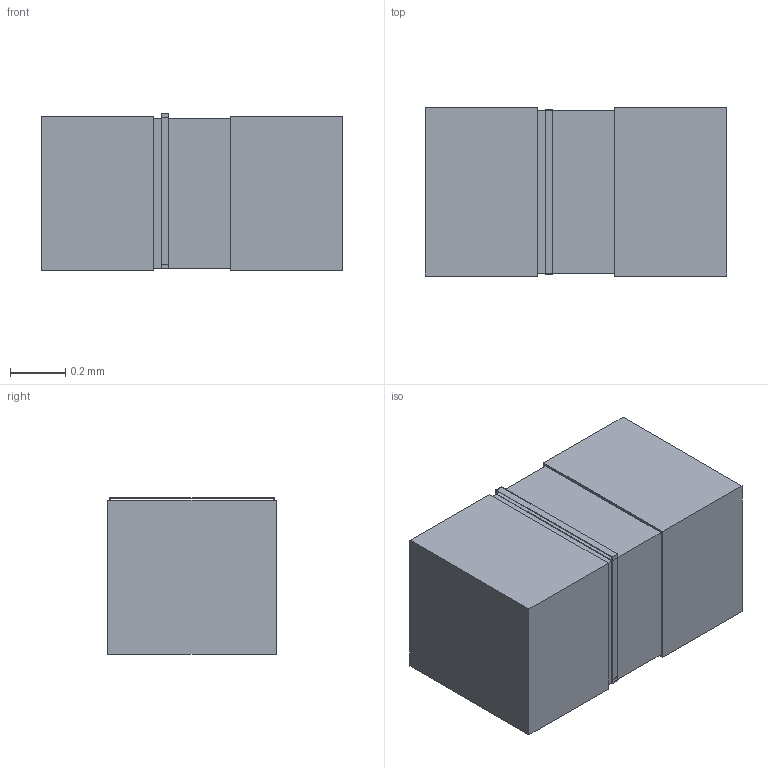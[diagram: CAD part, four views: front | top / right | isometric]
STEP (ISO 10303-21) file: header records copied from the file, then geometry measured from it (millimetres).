
FILE_DESCRIPTION(('STEP AP214'),'1');
FILE_NAME('CAP_0402C_AVX','2025-04-10T03:20:38',(''),(''),'','','');
FILE_SCHEMA(('AUTOMOTIVE_DESIGN'));
Length unit declared in the file: millimetre
Products named in the file (1): product
Bounding box: 1.09 x 0.61 x 0.57 mm (x, y, z)
Volume: 0.4 mm3; surface area: 4.8 mm2
Topology: 5 solids, 5 shells, 42 faces, 92 edges, 56 vertices
Faces by surface type: plane 42
Entity records: 1226 total; most frequent: ORIENTED_EDGE 184, DIRECTION 178, CARTESIAN_POINT 99, EDGE_CURVE 92, LINE 92, VECTOR 92, VERTEX_POINT 56, AXIS2_PLACEMENT_3D 43
